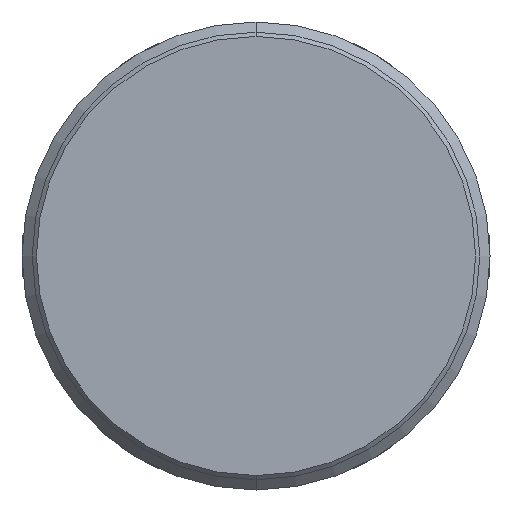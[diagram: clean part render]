
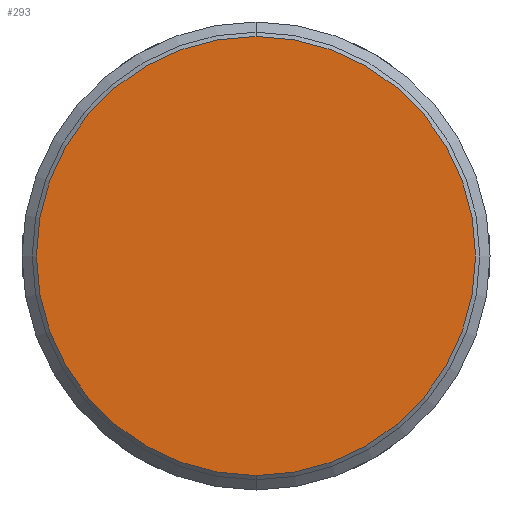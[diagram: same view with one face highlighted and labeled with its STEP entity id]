
A CAD part, front view. The second image highlights one B-rep face of the part: STEP entity #293.
In plain terms, the highlighted planar face has unit normal (0, -1, 0).
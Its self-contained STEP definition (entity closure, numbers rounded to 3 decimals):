
#268=CARTESIAN_POINT('',(0.0,-49.5,-25.8));
#269=VERTEX_POINT('',#268);
#270=CARTESIAN_POINT('',(0.0,-49.5,25.8));
#271=VERTEX_POINT('',#270);
#272=CARTESIAN_POINT('',(0.0,-49.5,0.0));
#273=DIRECTION('',(0.0,-1.0,0.0));
#274=DIRECTION('',(0.0,0.0,-1.0));
#275=AXIS2_PLACEMENT_3D('',#272,#273,#274);
#276=CIRCLE('',#275,25.8);
#277=EDGE_CURVE('no 2178',#269,#271,#276,.T.);
#278=ORIENTED_EDGE('',*,*,#277,.T.);
#279=CARTESIAN_POINT('',(0.0,-49.5,0.0));
#280=DIRECTION('',(0.0,-1.0,0.0));
#281=DIRECTION('',(0.0,0.0,-1.0));
#282=AXIS2_PLACEMENT_3D('',#279,#280,#281);
#283=CIRCLE('',#282,25.8);
#284=EDGE_CURVE('no 2182',#271,#269,#283,.T.);
#285=ORIENTED_EDGE('',*,*,#284,.T.);
#286=EDGE_LOOP('',(#278,#285));
#287=FACE_OUTER_BOUND('',#286,.T.);
#288=CARTESIAN_POINT('',(0.0,-49.5,0.0));
#289=DIRECTION('',(0.0,-1.0,0.0));
#290=DIRECTION('',(0.0,0.0,-1.0));
#291=AXIS2_PLACEMENT_3D('',#288,#289,#290);
#292=PLANE('',#291);
#293=ADVANCED_FACE('no 2169',(#287),#292,.T.);
